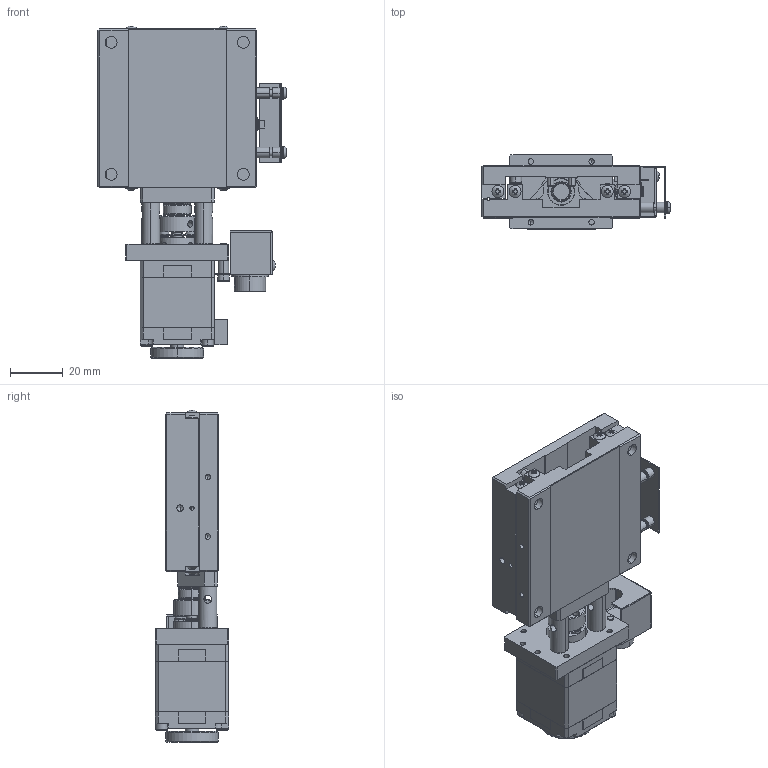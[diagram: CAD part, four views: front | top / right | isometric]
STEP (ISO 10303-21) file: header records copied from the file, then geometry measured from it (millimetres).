
FILE_DESCRIPTION (( 'STEP AP214' ), '1' );
FILE_NAME ('TXS6015E-L1-M28L.STEP', '2025-01-03T09:20:24', ( '' ), ( '' ), 'SwSTEP 2.0', 'SolidWorks 2020', '' );
FILE_SCHEMA (( 'AUTOMOTIVE_DESIGN' ));
Length unit declared in the file: millimetre
Products named in the file (1): TXS6015E-L1-M28L
Bounding box: 71.2 x 28 x 125.63 mm (x, y, z)
Volume: 88050.3 mm3; surface area: 49052.4 mm2
Topology: 86 solids, 86 shells, 1836 faces, 4696 edges, 3019 vertices
Faces by surface type: plane 907, cylinder 583, cone 182, bspline 84, sphere 56, torus 24
Entity records: 60418 total; most frequent: CARTESIAN_POINT 16420, ORIENTED_EDGE 8976, DIRECTION 8721, EDGE_CURVE 4488, AXIS2_PLACEMENT_3D 3160, VERTEX_POINT 2935, VECTOR 2401, LINE 2401
